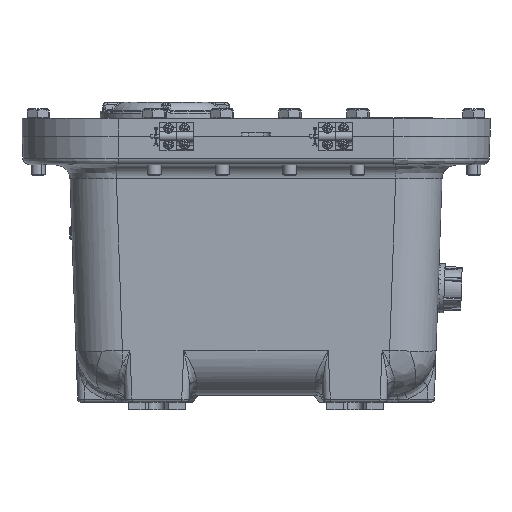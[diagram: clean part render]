
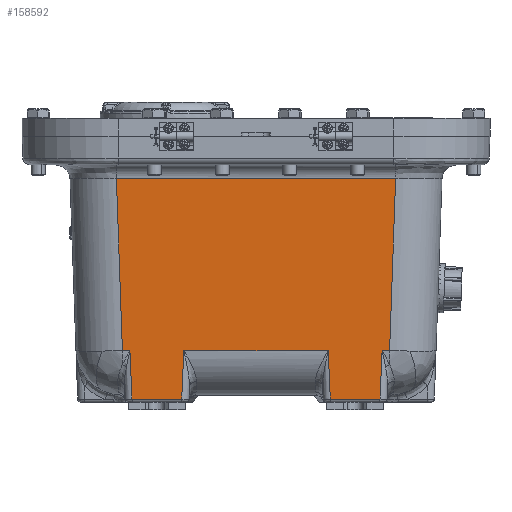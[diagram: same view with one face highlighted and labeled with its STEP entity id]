
A CAD part, left-side view. The second image highlights one B-rep face of the part: STEP entity #158592.
In plain terms, the highlighted planar face has unit normal (-0.999, 0, -0.035).
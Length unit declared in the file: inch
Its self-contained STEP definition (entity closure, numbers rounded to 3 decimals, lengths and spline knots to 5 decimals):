
#24 = VECTOR ( 'NONE', #63158, 39.37008 ) ;
#860 = LINE ( 'NONE', #186152, #145733 ) ;
#1912 = LINE ( 'NONE', #119846, #87004 ) ;
#5284 = LINE ( 'NONE', #21822, #26996 ) ;
#5572 = LINE ( 'NONE', #155543, #58650 ) ;
#6399 = EDGE_CURVE ( 'NONE', #122626, #95311, #28576, .T. ) ;
#6847 = DIRECTION ( 'NONE',  ( 0., -1., 0. ) ) ;
#8840 = EDGE_CURVE ( 'NONE', #87246, #96020, #102738, .T. ) ;
#17075 = LINE ( 'NONE', #168158, #141209 ) ;
#19800 = ORIENTED_EDGE ( 'NONE', *, *, #6399, .T. ) ;
#21822 = CARTESIAN_POINT ( 'NONE',  ( -6.29899, -2.52513, -7.55671 ) ) ;
#22624 = CARTESIAN_POINT ( 'NONE',  ( -6.29899, -4.67498, -7.55671 ) ) ;
#26403 = CARTESIAN_POINT ( 'NONE',  ( -6.23971, 2.59926, -9.25436 ) ) ;
#26996 = VECTOR ( 'NONE', #124311, 39.37008 ) ;
#28576 = LINE ( 'NONE', #26403, #199816 ) ;
#29079 = CARTESIAN_POINT ( 'NONE',  ( -6.23971, -2.59926, -9.25436 ) ) ;
#29397 = DIRECTION ( 'NONE',  ( -0.999, 0., -0.035 ) ) ;
#30033 = CARTESIAN_POINT ( 'NONE',  ( -6.23971, 5.9375, -9.25436 ) ) ;
#35980 = CARTESIAN_POINT ( 'NONE',  ( -6.23971, -4.33824, -9.25436 ) ) ;
#37910 = EDGE_CURVE ( 'NONE', #165380, #87246, #860, .T. ) ;
#39227 = VERTEX_POINT ( 'NONE', #29079 ) ;
#42070 = ORIENTED_EDGE ( 'NONE', *, *, #126258, .T. ) ;
#43538 = ORIENTED_EDGE ( 'NONE', *, *, #189522, .T. ) ;
#45318 = LINE ( 'NONE', #175624, #69896 ) ;
#53213 = ORIENTED_EDGE ( 'NONE', *, *, #63895, .T. ) ;
#53822 = VERTEX_POINT ( 'NONE', #116386 ) ;
#58650 = VECTOR ( 'NONE', #122424, 39.37008 ) ;
#59876 = ORIENTED_EDGE ( 'NONE', *, *, #139550, .T. ) ;
#63102 = CARTESIAN_POINT ( 'NONE',  ( -6.50893, 2.96875, -1.54505 ) ) ;
#63158 = DIRECTION ( 'NONE',  ( 0., -1., 0. ) ) ;
#63895 = EDGE_CURVE ( 'NONE', #101236, #39227, #5284, .T. ) ;
#65258 = DIRECTION ( 'NONE',  ( 0., 1., 0. ) ) ;
#68549 = CARTESIAN_POINT ( 'NONE',  ( -6.29899, 5.9375, -7.55671 ) ) ;
#69896 = VECTOR ( 'NONE', #6847, 39.37008 ) ;
#70490 = AXIS2_PLACEMENT_3D ( 'NONE', #112136, #29397, #210464 ) ;
#75806 = ORIENTED_EDGE ( 'NONE', *, *, #142252, .T. ) ;
#76905 = PLANE ( 'NONE',  #70490 ) ;
#81814 = LINE ( 'NONE', #63102, #185462 ) ;
#82479 = DIRECTION ( 'NONE',  ( -0.035, -0.044, 0.998 ) ) ;
#83838 = EDGE_LOOP ( 'NONE', ( #107786, #43538, #75806, #42070, #19800, #143827, #53213, #120024, #125363, #166681, #105653, #59876 ) ) ;
#86741 = VERTEX_POINT ( 'NONE', #176458 ) ;
#86778 = DIRECTION ( 'NONE',  ( 0.035, -0.044, -0.998 ) ) ;
#87004 = VECTOR ( 'NONE', #86778, 39.37008 ) ;
#87246 = VERTEX_POINT ( 'NONE', #202485 ) ;
#95311 = VERTEX_POINT ( 'NONE', #111464 ) ;
#95554 = VECTOR ( 'NONE', #130998, 39.37008 ) ;
#96020 = VERTEX_POINT ( 'NONE', #22624 ) ;
#97876 = LINE ( 'NONE', #101139, #95554 ) ;
#101139 = CARTESIAN_POINT ( 'NONE',  ( -6.29899, 5.9375, -7.55671 ) ) ;
#101236 = VERTEX_POINT ( 'NONE', #112663 ) ;
#102738 = LINE ( 'NONE', #68549, #164847 ) ;
#105653 = ORIENTED_EDGE ( 'NONE', *, *, #207398, .T. ) ;
#105979 = DIRECTION ( 'NONE',  ( 0., -1., 0. ) ) ;
#107786 = ORIENTED_EDGE ( 'NONE', *, *, #195895, .F. ) ;
#111464 = CARTESIAN_POINT ( 'NONE',  ( -6.29899, 2.52513, -7.55671 ) ) ;
#112136 = CARTESIAN_POINT ( 'NONE',  ( -6.56212, 5.9375, -0.02181 ) ) ;
#112663 = CARTESIAN_POINT ( 'NONE',  ( -6.29899, -2.52513, -7.55671 ) ) ;
#116386 = CARTESIAN_POINT ( 'NONE',  ( -6.50893, 4.88492, -1.54505 ) ) ;
#119846 = CARTESIAN_POINT ( 'NONE',  ( -6.29899, 4.41237, -7.55671 ) ) ;
#120024 = ORIENTED_EDGE ( 'NONE', *, *, #211225, .T. ) ;
#122424 = DIRECTION ( 'NONE',  ( -0.035, -0.035, 0.999 ) ) ;
#122626 = VERTEX_POINT ( 'NONE', #208205 ) ;
#124311 = DIRECTION ( 'NONE',  ( 0.035, -0.044, -0.998 ) ) ;
#125363 = ORIENTED_EDGE ( 'NONE', *, *, #37910, .T. ) ;
#126258 = EDGE_CURVE ( 'NONE', #209813, #122626, #45318, .T. ) ;
#130998 = DIRECTION ( 'NONE',  ( 0., -1., 0. ) ) ;
#131535 = EDGE_CURVE ( 'NONE', #95311, #101236, #97876, .T. ) ;
#136772 = CARTESIAN_POINT ( 'NONE',  ( -6.55611, 4.9321, -0.19384 ) ) ;
#139550 = EDGE_CURVE ( 'NONE', #149279, #53822, #81814, .T. ) ;
#141209 = VECTOR ( 'NONE', #150490, 39.37008 ) ;
#142252 = EDGE_CURVE ( 'NONE', #142935, #209813, #1912, .T. ) ;
#142935 = VERTEX_POINT ( 'NONE', #144356 ) ;
#143827 = ORIENTED_EDGE ( 'NONE', *, *, #131535, .T. ) ;
#144356 = CARTESIAN_POINT ( 'NONE',  ( -6.29899, 4.41237, -7.55671 ) ) ;
#145733 = VECTOR ( 'NONE', #82479, 39.37008 ) ;
#148759 = DIRECTION ( 'NONE',  ( -0.035, -0.044, 0.998 ) ) ;
#149279 = VERTEX_POINT ( 'NONE', #189702 ) ;
#150490 = DIRECTION ( 'NONE',  ( 0., -1., 0. ) ) ;
#155543 = CARTESIAN_POINT ( 'NONE',  ( -6.29899, -4.67498, -7.55671 ) ) ;
#158592 = ADVANCED_FACE ( 'NONE', ( #212635 ), #76905, .T. ) ;
#164847 = VECTOR ( 'NONE', #105979, 39.37008 ) ;
#165380 = VERTEX_POINT ( 'NONE', #35980 ) ;
#166681 = ORIENTED_EDGE ( 'NONE', *, *, #8840, .T. ) ;
#168158 = CARTESIAN_POINT ( 'NONE',  ( -6.29899, 5.9375, -7.55671 ) ) ;
#171127 = VECTOR ( 'NONE', #173189, 39.37008 ) ;
#173189 = DIRECTION ( 'NONE',  ( -0.035, 0.035, 0.999 ) ) ;
#175624 = CARTESIAN_POINT ( 'NONE',  ( -6.23971, 5.9375, -9.25436 ) ) ;
#176458 = CARTESIAN_POINT ( 'NONE',  ( -6.29899, 4.67498, -7.55671 ) ) ;
#185462 = VECTOR ( 'NONE', #65258, 39.37008 ) ;
#186152 = CARTESIAN_POINT ( 'NONE',  ( -6.23971, -4.33824, -9.25436 ) ) ;
#187072 = CARTESIAN_POINT ( 'NONE',  ( -6.23971, 4.33824, -9.25436 ) ) ;
#188673 = LINE ( 'NONE', #136772, #171127 ) ;
#189522 = EDGE_CURVE ( 'NONE', #86741, #142935, #17075, .T. ) ;
#189702 = CARTESIAN_POINT ( 'NONE',  ( -6.50893, -4.88492, -1.54505 ) ) ;
#195601 = LINE ( 'NONE', #30033, #24 ) ;
#195895 = EDGE_CURVE ( 'NONE', #86741, #53822, #188673, .T. ) ;
#199816 = VECTOR ( 'NONE', #148759, 39.37008 ) ;
#202485 = CARTESIAN_POINT ( 'NONE',  ( -6.29899, -4.41237, -7.55671 ) ) ;
#207398 = EDGE_CURVE ( 'NONE', #96020, #149279, #5572, .T. ) ;
#208205 = CARTESIAN_POINT ( 'NONE',  ( -6.23971, 2.59926, -9.25436 ) ) ;
#209813 = VERTEX_POINT ( 'NONE', #187072 ) ;
#210464 = DIRECTION ( 'NONE',  ( -0.035, 0., 0.999 ) ) ;
#211225 = EDGE_CURVE ( 'NONE', #39227, #165380, #195601, .T. ) ;
#212635 = FACE_OUTER_BOUND ( 'NONE', #83838, .T. ) ;
